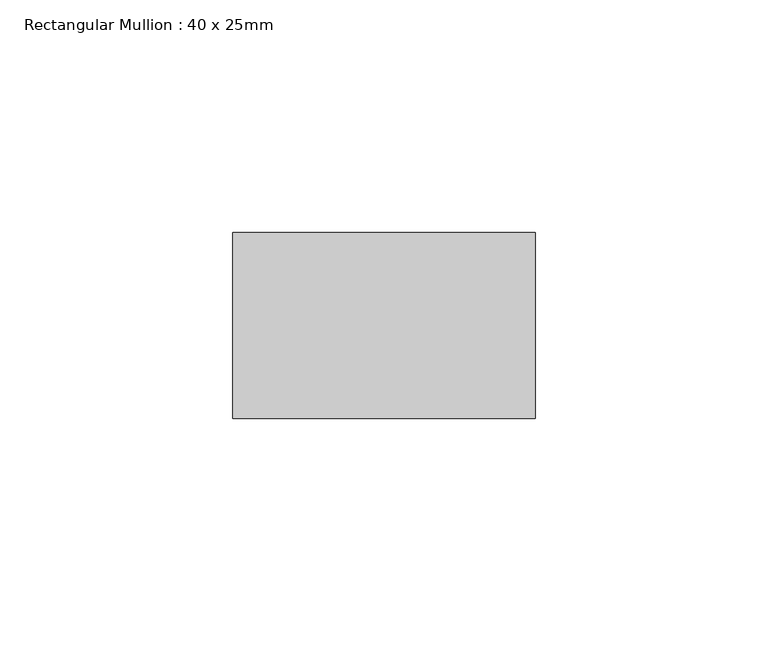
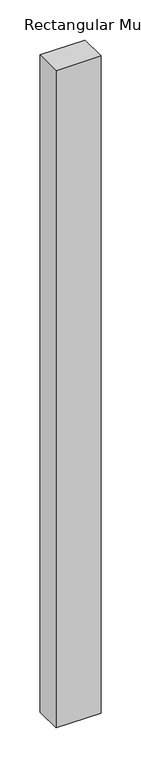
"""IFC4 building model written with IfcOpenShell, lengths in millimetres: member geometry, Rectangular Mullion : 40 x 25mm."""

from ifc_helpers import new_model, si_unit, frame, origin, place, context, project, spatial, polyline, outline, extrude, source, transform, mapped, element, save


def rectangular_mullion_40_x_25mm_30c754d0(model_context):
    return source(origin(), model_context, "Body", "SweptSolid", [
        extrude(outline(polyline([(0.0, -20.0), (0.0, -60.0), (-65.0, -60.0), (-65.0, -20.0), (0.0, -20.0)])), frame((0.0, 0.0, -1002.0575408), z_axis=(0.0, 0.0, 1.0), x_axis=(1.0, 0.0, 0.0)), (0.0, 0.0, 1.0), 1002.0575408),
    ])


if __name__ == "__main__":
    model = new_model("IFC4")
    model_context = context("Model", 3, world=origin())
    ifc_project = project(units=[si_unit("LENGTHUNIT", "METRE", prefix="MILLI")], contexts=[model_context])
    site = spatial("IfcSite", under=ifc_project)
    building = spatial("IfcBuilding", under=site)
    placement = place(None, origin())
    rectangular_mullion_40_x_25mm_shape = rectangular_mullion_40_x_25mm_30c754d0(model_context)
    element("IfcMember", 1, ObjectType="Rectangular Mullion : 40 x 25mm", at=placement, inside=building, context=model_context, shape_type="MappedRepresentation", body=[
        mapped(rectangular_mullion_40_x_25mm_shape, transform((0.0, 0.0, 0.0), x_axis=(1.0, 0.0, 0.0), y_axis=(0.0, 1.0, 0.0), z_axis=(0.0, 0.0, 1.0))),
    ])
    save(model, "model.ifc")
